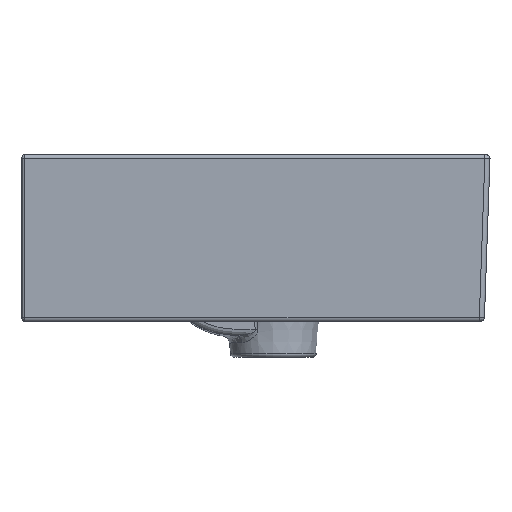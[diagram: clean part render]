
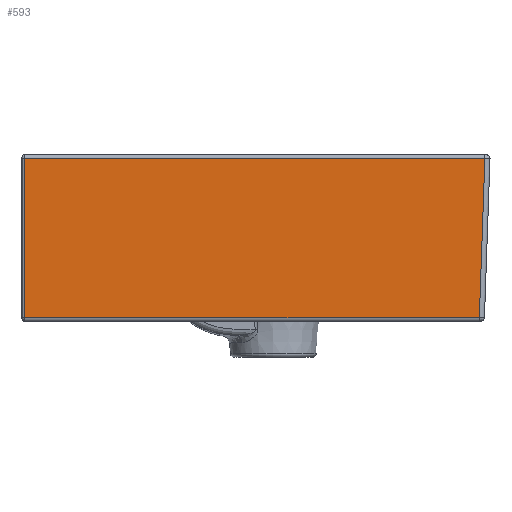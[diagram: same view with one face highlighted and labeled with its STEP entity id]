
A CAD part, left-side view. The second image highlights one B-rep face of the part: STEP entity #593.
In plain terms, the highlighted planar face has unit normal (-1, 0, -0.018).
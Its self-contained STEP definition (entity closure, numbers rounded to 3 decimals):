
#593=ADVANCED_FACE('',(#1079),#1014,.F.);
#1014=PLANE('',#6971);
#1079=FACE_OUTER_BOUND('',#1519,.T.);
#1519=EDGE_LOOP('',(#3185,#3186,#3187,#3188,#3189));
#2045=LINE('',#20969,#2196);
#2046=LINE('',#20972,#2197);
#2047=LINE('',#20974,#2198);
#2048=LINE('',#20976,#2199);
#2196=VECTOR('',#7643,1.);
#2197=VECTOR('',#7644,1.);
#2198=VECTOR('',#7645,1.);
#2199=VECTOR('',#7646,1.);
#2441=B_SPLINE_CURVE_WITH_KNOTS('',3,(#20978,#20979,#20980,#20981),
 .UNSPECIFIED.,.F.,.F.,(4,4),(0.,1.),.UNSPECIFIED.);
#3185=ORIENTED_EDGE('',*,*,#5881,.T.);
#3186=ORIENTED_EDGE('',*,*,#5882,.T.);
#3187=ORIENTED_EDGE('',*,*,#5883,.T.);
#3188=ORIENTED_EDGE('',*,*,#5884,.T.);
#3189=ORIENTED_EDGE('',*,*,#5885,.T.);
#5224=VERTEX_POINT('',#20970);
#5225=VERTEX_POINT('',#20971);
#5226=VERTEX_POINT('',#20973);
#5227=VERTEX_POINT('',#20975);
#5228=VERTEX_POINT('',#20977);
#5881=EDGE_CURVE('',#5224,#5225,#2045,.T.);
#5882=EDGE_CURVE('',#5225,#5226,#2046,.T.);
#5883=EDGE_CURVE('',#5226,#5227,#2047,.T.);
#5884=EDGE_CURVE('',#5227,#5228,#2048,.T.);
#5885=EDGE_CURVE('',#5228,#5224,#2441,.T.);
#6971=AXIS2_PLACEMENT_3D('',#20982,#7647,#7648);
#7643=DIRECTION('',(0.,-1.,0.));
#7644=DIRECTION('',(-0.017,-0.035,0.999));
#7645=DIRECTION('',(0.,1.,0.));
#7646=DIRECTION('',(0.017,0.,-1.));
#7647=DIRECTION('',(1.,0.,0.017));
#7648=DIRECTION('',(0.017,0.,-1.));
#20969=CARTESIAN_POINT('',(-247.782,-27.3,-127.052));
#20970=CARTESIAN_POINT('',(-247.782,-2.,-127.052));
#20971=CARTESIAN_POINT('',(-247.782,-356.563,-127.052));
#20972=CARTESIAN_POINT('',(-249.891,-360.783,-6.224));
#20973=CARTESIAN_POINT('',(-249.947,-360.893,-3.052));
#20974=CARTESIAN_POINT('',(-249.947,-182.5,-3.052));
#20975=CARTESIAN_POINT('',(-249.947,-2.,-3.052));
#20976=CARTESIAN_POINT('',(-250.,-2.,0.));
#20977=CARTESIAN_POINT('',(-247.783,-2.,-127.035));
#20978=CARTESIAN_POINT('',(-247.783,-2.,-127.035));
#20979=CARTESIAN_POINT('',(-247.782,-2.,-127.041));
#20980=CARTESIAN_POINT('',(-247.782,-2.,-127.047));
#20981=CARTESIAN_POINT('',(-247.782,-2.,-127.052));
#20982=CARTESIAN_POINT('',(-250.,-182.5,0.));
